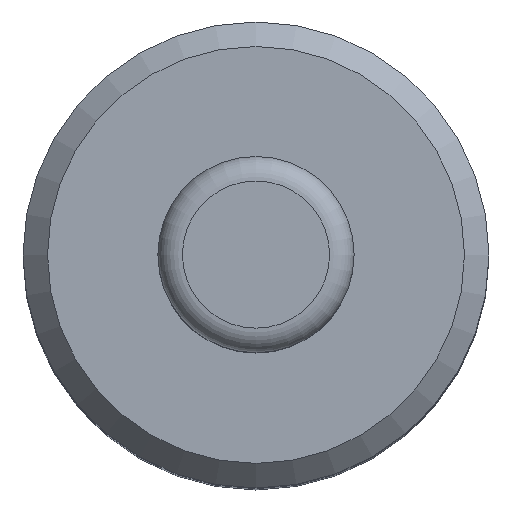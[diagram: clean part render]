
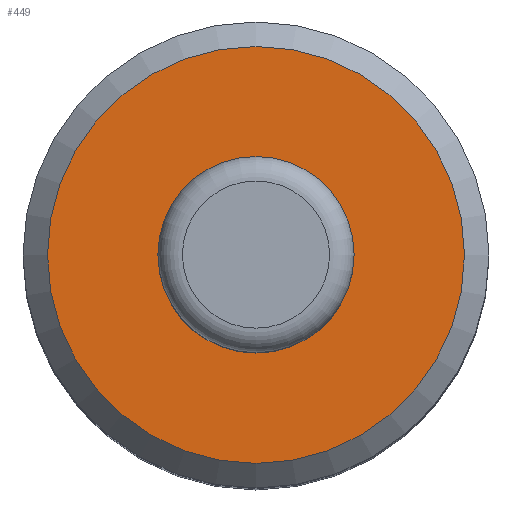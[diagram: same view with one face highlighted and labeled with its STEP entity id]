
A CAD part, top view. The second image highlights one B-rep face of the part: STEP entity #449.
In plain terms, the highlighted planar face has unit normal (0, 0, 1).
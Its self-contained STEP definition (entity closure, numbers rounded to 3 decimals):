
#429 = VERTEX_POINT('',#430);
#430 = CARTESIAN_POINT('',(8.5,0.,48.));
#438 = EDGE_CURVE('',#429,#429,#439,.T.);
#439 = CIRCLE('',#440,8.5);
#440 = AXIS2_PLACEMENT_3D('',#441,#442,#443);
#441 = CARTESIAN_POINT('',(0.,0.,48.));
#442 = DIRECTION('',(0.,0.,1.));
#443 = DIRECTION('',(1.,0.,0.));
#449 = ADVANCED_FACE('',(#450),#453,.T.);
#450 = FACE_BOUND('',#451,.T.);
#451 = EDGE_LOOP('',(#452));
#452 = ORIENTED_EDGE('',*,*,#438,.T.);
#453 = PLANE('',#454);
#454 = AXIS2_PLACEMENT_3D('',#455,#456,#457);
#455 = CARTESIAN_POINT('',(0.,0.,48.));
#456 = DIRECTION('',(0.,0.,1.));
#457 = DIRECTION('',(1.,0.,0.));
